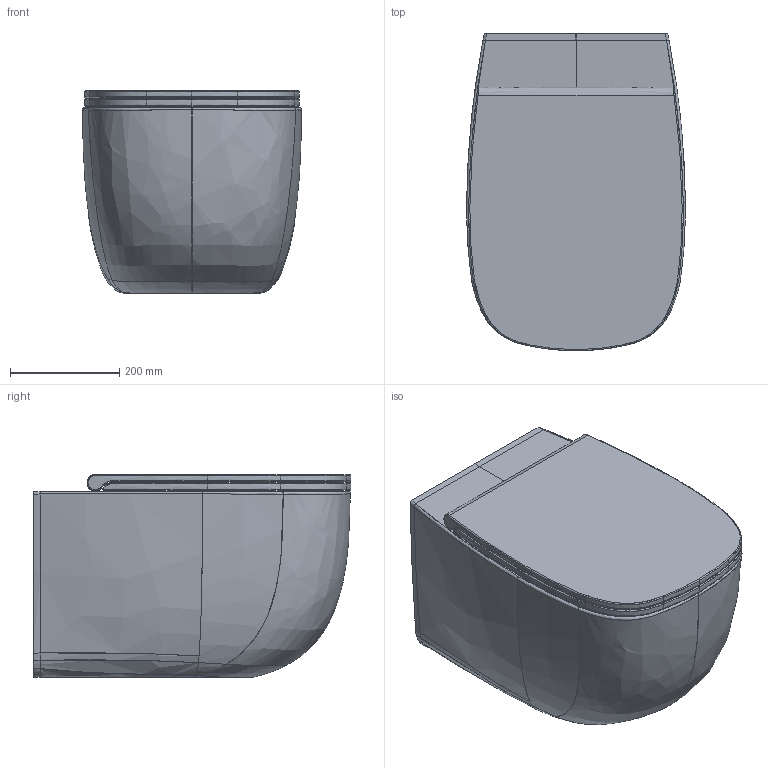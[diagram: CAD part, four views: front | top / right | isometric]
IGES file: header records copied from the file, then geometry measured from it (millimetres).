
Start section: START RECORD GO HERE.
Global section: file name: Vaso sospeso LOLA.igs; native system: DASSAULT SYSTEMES CATIA V5 R19 - www.3ds.com; preprocessor: CATIA Version 5 Release 19 SP 5 ; author: Luca; organization: DESKTOP-V7SON24; date: 20230523.123255; units: millimetre
Bounding box: 400.31 x 580.53 x 371.13 mm (x, y, z)
Surface area: 1765345.4 mm2 (no closed solid volume)
Topology: 0 solids, 0 shells, 173 faces, 776 edges, 773 vertices
Faces by surface type: bspline 137, extrusion 16, plane 13, revolution 7
